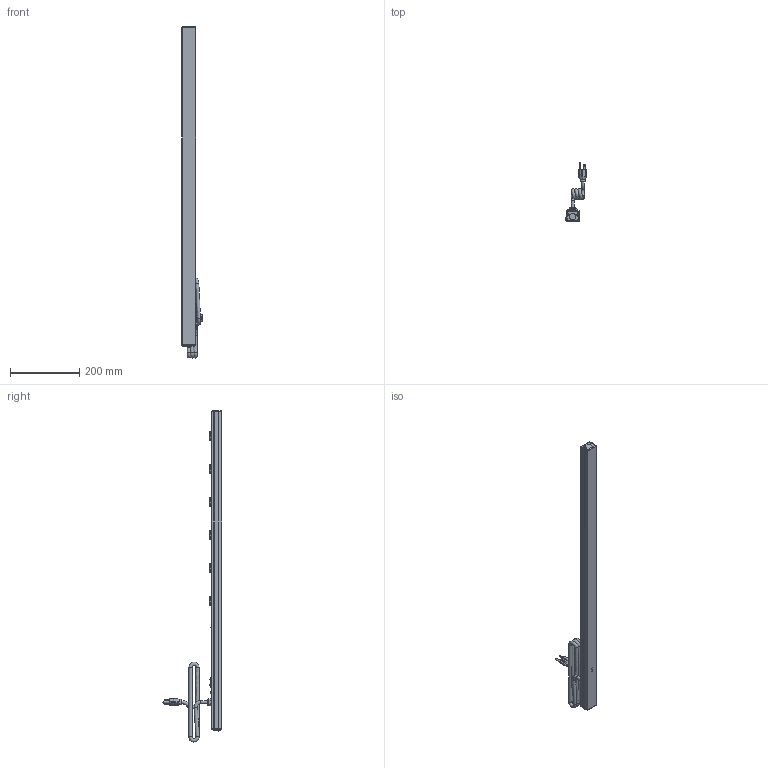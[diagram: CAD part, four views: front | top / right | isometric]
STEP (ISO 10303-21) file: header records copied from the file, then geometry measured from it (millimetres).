
FILE_DESCRIPTION(/* description */ (''),/* implementation_level */ '2;1');
FILE_NAME(/* name */ 'E:\Manufacturing\drawings\Web Drawings\POWER BARS\Surge Protection\1585, 87, 88 ''S'' series\STEP''s\15853H6A1S.stp',/* time_stamp */ '2019-01-14T12:24:27-05:00',/* author */ ('tfoster'),/* organization */ (''),/* preprocessor_version */ 'ST-DEVELOPER v17',/* originating_system */ 'Autodesk Inventor 2019',/* authorisation */ '');
FILE_SCHEMA (('AUTOMOTIVE_DESIGN { 1 0 10303 214 3 1 1 }'));
Products named in the file (14): 1585H8A1; 15853H6 top; 15853 bottom; End Cap; End Cap w breaker; Reset Switch; #28977; Cored 2; Power Switch Assembly; Power Switch; Power Switch pt; Surge Light; tamper proof screw; Receptacle
Assembly tree (21 placements, depth 3):
  1585H8A1
    15853H6 top
    15853 bottom
    End Cap
    End Cap w breaker
    Reset Switch
    #28977  x4
    Cored 2
    Power Switch Assembly
      Power Switch
      Power Switch pt
    Surge Light
    tamper proof screw
    Receptacle  x6
Bounding box: 60.19 x 170.82 x 957.99 mm (x, y, z)
Volume: 409080.8 mm3; surface area: 374208.4 mm2
Topology: 20 solids, 20 shells, 1087 faces, 2969 edges, 1928 vertices
Faces by surface type: plane 574, cylinder 318, bspline 125, sphere 31, cone 25, torus 14
Full cylindrical faces by diameter (mm): 1 x1, 1.803 x3, 1.905 x2, 2.13 x20, 3 x2, 3.175 x12, 3.505 x12, 4.775 x1, 4.826 x1, 6.858 x1, 7.747 x1, 8 x1, 9.5 x5, 9.652 x1, 11 x1, 15.621 x1, 19.05 x2
Entity records: 28790 total; most frequent: CARTESIAN_POINT 11146, ORIENTED_EDGE 3778, DIRECTION 3207, EDGE_CURVE 1889, VERTEX_POINT 1250, LINE 1117, VECTOR 1117, AXIS2_PLACEMENT_3D 1045
